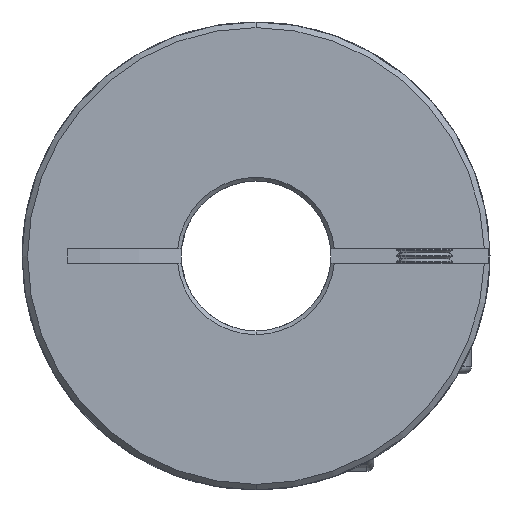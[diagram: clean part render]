
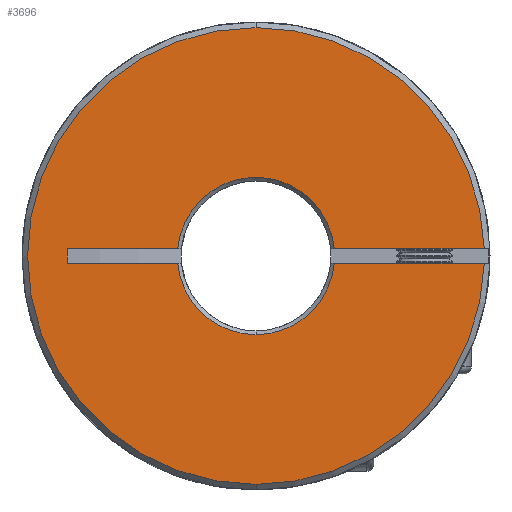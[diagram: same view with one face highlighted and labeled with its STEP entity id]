
A CAD part, front view. The second image highlights one B-rep face of the part: STEP entity #3696.
In plain terms, the highlighted planar face has unit normal (0, -1, 0).
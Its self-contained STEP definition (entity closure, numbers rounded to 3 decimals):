
#10 = CARTESIAN_POINT ( 'NONE',  ( -20.149, 0., 0.75 ) ) ;
#184 = CIRCLE ( 'NONE', #4761, 24.4 ) ;
#366 = LINE ( 'NONE', #4838, #14101 ) ;
#493 = CARTESIAN_POINT ( 'NONE',  ( 0., 0., -24.4 ) ) ;
#803 = DIRECTION ( 'NONE',  ( 0., 1., 0. ) ) ;
#1195 = DIRECTION ( 'NONE',  ( 0., 0., 1. ) ) ;
#1199 = LINE ( 'NONE', #2538, #11129 ) ;
#1307 = ORIENTED_EDGE ( 'NONE', *, *, #11138, .T. ) ;
#1425 = DIRECTION ( 'NONE',  ( 0., 0., 1. ) ) ;
#1657 = EDGE_CURVE ( 'NONE', #4310, #14935, #7216, .T. ) ;
#2050 = EDGE_CURVE ( 'NONE', #6682, #8621, #10136, .T. ) ;
#2113 = ORIENTED_EDGE ( 'NONE', *, *, #16443, .T. ) ;
#2538 = CARTESIAN_POINT ( 'NONE',  ( -50., 0., 0.75 ) ) ;
#2595 = DIRECTION ( 'NONE',  ( 1., 0., 0. ) ) ;
#2903 = CARTESIAN_POINT ( 'NONE',  ( 0., 0., 0. ) ) ;
#3047 = DIRECTION ( 'NONE',  ( 1., 0., 0. ) ) ;
#3205 = VERTEX_POINT ( 'NONE', #10362 ) ;
#3294 = VERTEX_POINT ( 'NONE', #11951 ) ;
#3506 = PLANE ( 'NONE',  #12090 ) ;
#3696 = ADVANCED_FACE ( 'NONE', ( #14373 ), #3506, .F. ) ;
#3746 = EDGE_CURVE ( 'NONE', #8621, #3205, #14169, .T. ) ;
#3783 = EDGE_LOOP ( 'NONE', ( #9610, #5320, #14655, #5065, #1307, #15292, #3997, #2113, #12988, #14484, #13694 ) ) ;
#3803 = VECTOR ( 'NONE', #3920, 1000. ) ;
#3852 = DIRECTION ( 'NONE',  ( 0., -1., 0. ) ) ;
#3920 = DIRECTION ( 'NONE',  ( 1., 0., 0. ) ) ;
#3979 = CARTESIAN_POINT ( 'NONE',  ( 0., 0., 0. ) ) ;
#3997 = ORIENTED_EDGE ( 'NONE', *, *, #3746, .T. ) ;
#4085 = VECTOR ( 'NONE', #13196, 1000. ) ;
#4113 = EDGE_CURVE ( 'NONE', #16980, #10340, #8479, .T. ) ;
#4135 = CARTESIAN_POINT ( 'NONE',  ( -50., 0., 0.75 ) ) ;
#4198 = CARTESIAN_POINT ( 'NONE',  ( 8.366, 0., -0.75 ) ) ;
#4310 = VERTEX_POINT ( 'NONE', #493 ) ;
#4390 = CARTESIAN_POINT ( 'NONE',  ( 24.388, 0., 0.75 ) ) ;
#4463 = CIRCLE ( 'NONE', #11232, 24.4 ) ;
#4719 = EDGE_CURVE ( 'NONE', #11821, #10340, #5898, .T. ) ;
#4761 = AXIS2_PLACEMENT_3D ( 'NONE', #11051, #3852, #12107 ) ;
#4838 = CARTESIAN_POINT ( 'NONE',  ( -50., 0., -0.75 ) ) ;
#4886 = CARTESIAN_POINT ( 'NONE',  ( 24.388, 0., -0.75 ) ) ;
#5065 = ORIENTED_EDGE ( 'NONE', *, *, #4719, .F. ) ;
#5320 = ORIENTED_EDGE ( 'NONE', *, *, #12431, .T. ) ;
#5449 = EDGE_CURVE ( 'NONE', #6330, #14935, #366, .T. ) ;
#5742 = AXIS2_PLACEMENT_3D ( 'NONE', #8240, #8295, #1425 ) ;
#5802 = DIRECTION ( 'NONE',  ( 0., 0., 1. ) ) ;
#5898 = LINE ( 'NONE', #9907, #7611 ) ;
#6240 = CARTESIAN_POINT ( 'NONE',  ( 0., 0., 0. ) ) ;
#6330 = VERTEX_POINT ( 'NONE', #4198 ) ;
#6476 = CARTESIAN_POINT ( 'NONE',  ( 0., 0., 0. ) ) ;
#6682 = VERTEX_POINT ( 'NONE', #10 ) ;
#6688 = DIRECTION ( 'NONE',  ( 0., 1., 0. ) ) ;
#7216 = CIRCLE ( 'NONE', #5742, 24.4 ) ;
#7321 = DIRECTION ( 'NONE',  ( 1., 0., 0. ) ) ;
#7611 = VECTOR ( 'NONE', #3047, 1000. ) ;
#7722 = DIRECTION ( 'NONE',  ( 0., 0., 1. ) ) ;
#8240 = CARTESIAN_POINT ( 'NONE',  ( 0., 0., 0. ) ) ;
#8295 = DIRECTION ( 'NONE',  ( 0., -1., 0. ) ) ;
#8479 = CIRCLE ( 'NONE', #12436, 8.4 ) ;
#8533 = DIRECTION ( 'NONE',  ( 0., -1., 0. ) ) ;
#8621 = VERTEX_POINT ( 'NONE', #14328 ) ;
#8903 = CARTESIAN_POINT ( 'NONE',  ( -50., 0., 32.858 ) ) ;
#9024 = DIRECTION ( 'NONE',  ( 0., 0., 1. ) ) ;
#9419 = DIRECTION ( 'NONE',  ( 0., 0., 1. ) ) ;
#9610 = ORIENTED_EDGE ( 'NONE', *, *, #5449, .F. ) ;
#9766 = AXIS2_PLACEMENT_3D ( 'NONE', #6240, #803, #7722 ) ;
#9907 = CARTESIAN_POINT ( 'NONE',  ( -50., 0., -0.75 ) ) ;
#10136 = LINE ( 'NONE', #4135, #3803 ) ;
#10257 = CARTESIAN_POINT ( 'NONE',  ( -20.149, 0., -0.75 ) ) ;
#10340 = VERTEX_POINT ( 'NONE', #15063 ) ;
#10362 = CARTESIAN_POINT ( 'NONE',  ( 8.366, 0., 0.75 ) ) ;
#10532 = DIRECTION ( 'NONE',  ( 0., 1., 0. ) ) ;
#11051 = CARTESIAN_POINT ( 'NONE',  ( 0., 0., 0. ) ) ;
#11129 = VECTOR ( 'NONE', #2595, 1000. ) ;
#11138 = EDGE_CURVE ( 'NONE', #11821, #6682, #16928, .T. ) ;
#11232 = AXIS2_PLACEMENT_3D ( 'NONE', #2903, #8533, #5802 ) ;
#11821 = VERTEX_POINT ( 'NONE', #14214 ) ;
#11833 = CARTESIAN_POINT ( 'NONE',  ( 0., 0., -8.4 ) ) ;
#11951 = CARTESIAN_POINT ( 'NONE',  ( 0., 0., 24.4 ) ) ;
#12090 = AXIS2_PLACEMENT_3D ( 'NONE', #8903, #17090, #9024 ) ;
#12107 = DIRECTION ( 'NONE',  ( 0., 0., 1. ) ) ;
#12431 = EDGE_CURVE ( 'NONE', #6330, #16980, #15237, .T. ) ;
#12436 = AXIS2_PLACEMENT_3D ( 'NONE', #6476, #10532, #9419 ) ;
#12711 = VERTEX_POINT ( 'NONE', #4390 ) ;
#12760 = EDGE_CURVE ( 'NONE', #12711, #3294, #4463, .T. ) ;
#12988 = ORIENTED_EDGE ( 'NONE', *, *, #12760, .T. ) ;
#13196 = DIRECTION ( 'NONE',  ( 0., 0., 1. ) ) ;
#13694 = ORIENTED_EDGE ( 'NONE', *, *, #1657, .T. ) ;
#14101 = VECTOR ( 'NONE', #7321, 1000. ) ;
#14169 = CIRCLE ( 'NONE', #15381, 8.4 ) ;
#14214 = CARTESIAN_POINT ( 'NONE',  ( -20.149, 0., -0.75 ) ) ;
#14328 = CARTESIAN_POINT ( 'NONE',  ( -8.366, 0., 0.75 ) ) ;
#14373 = FACE_OUTER_BOUND ( 'NONE', #3783, .T. ) ;
#14484 = ORIENTED_EDGE ( 'NONE', *, *, #17470, .T. ) ;
#14655 = ORIENTED_EDGE ( 'NONE', *, *, #4113, .T. ) ;
#14935 = VERTEX_POINT ( 'NONE', #4886 ) ;
#15063 = CARTESIAN_POINT ( 'NONE',  ( -8.366, 0., -0.75 ) ) ;
#15237 = CIRCLE ( 'NONE', #9766, 8.4 ) ;
#15292 = ORIENTED_EDGE ( 'NONE', *, *, #2050, .T. ) ;
#15381 = AXIS2_PLACEMENT_3D ( 'NONE', #3979, #6688, #1195 ) ;
#16443 = EDGE_CURVE ( 'NONE', #3205, #12711, #1199, .T. ) ;
#16928 = LINE ( 'NONE', #10257, #4085 ) ;
#16980 = VERTEX_POINT ( 'NONE', #11833 ) ;
#17090 = DIRECTION ( 'NONE',  ( 0., 1., 0. ) ) ;
#17470 = EDGE_CURVE ( 'NONE', #3294, #4310, #184, .T. ) ;
